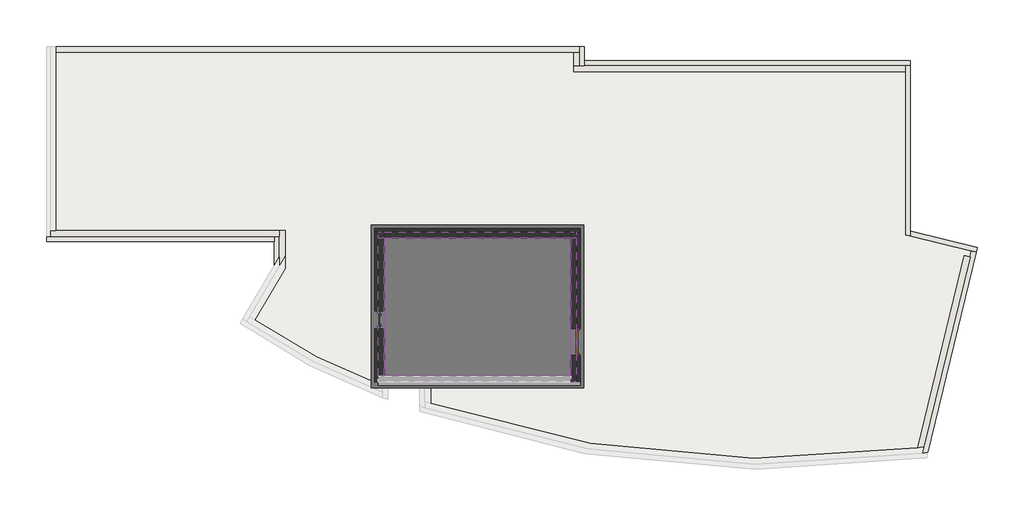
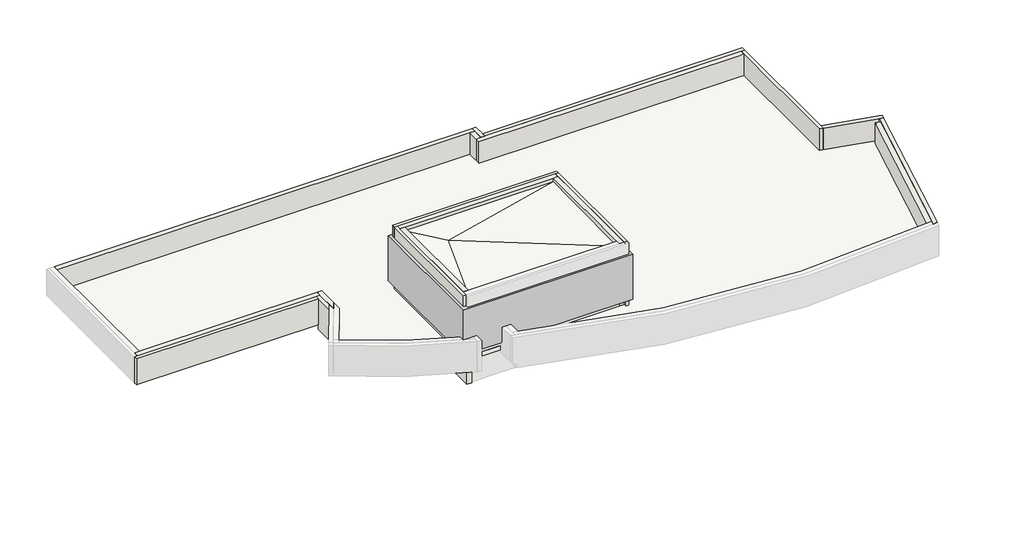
# One storey, part 2 of 2: 26 walls, 2 slabs, 1 door, 1 proxy, 1 window.
"""IFC4 building model written with IfcOpenShell, lengths in millimetres."""

from ifc_helpers import new_model, si_unit, point, frame, frame_2d, origin, place, context, project, spatial, polyline, circle_curve, trimmed, segment, composite_curve, outline, extrude, faceted_brep, transform, mapped, element, save
from ifc_brep_helpers import plane_surface, cylinder_surface, advanced_brep
from components import door_237e380f, window_22ff8bc4

model = new_model("IFC4")

# Units and contexts
model_context = context("Model", 3, world=origin())
ifc_project = project(units=[si_unit("LENGTHUNIT", "METRE", prefix="MILLI")], contexts=[model_context])

# Site, building, storey
site = spatial("IfcSite", under=ifc_project)
building = spatial("IfcBuilding", under=site)
storey = spatial("IfcBuildingStorey", under=building, Name="Этаж 3", Elevation=7100.0)

# Proxy
placement = place(None, origin())
element("IfcBuildingElementProxy", 1, Name="Ф Этаж 3 : Ф Этаж 3", ObjectType="Ф Этаж 3 : Ф Этаж 3", at=placement, inside=storey, context=model_context, shape_type="SweptSolid", body=[
    extrude(outline(polyline([(16510.0, 5120.0), (16510.0, -410.0), (9310.291724, -410.0), (9310.291724, 5120.0), (16510.0, 5120.0)])), frame((0.0, 0.0, 7379.4187309), z_axis=(0.0, 0.0, 1.0), x_axis=(1.0, 0.0, 0.0)), (0.0, 0.0, 1.0), 2020.5812691),
])

# Door
door_shape = door_237e380f(model_context)
element("IfcDoor", 2, ObjectType="(Dr)_ДУ(распашная)_1Ст_Прямоугольная : (Вн)_ДГ(0.91х1.8(h))", at=placement, inside=storey, context=model_context, shape_type="MappedRepresentation", body=[
    mapped(door_shape, transform((16330.0, 1155.0, 7400.0), x_axis=(0.0, 1.0, 0.0), y_axis=(-1.0, 0.0, 0.0), z_axis=(0.0, 0.0, 1.0))),
])

# Slabs
element("IfcSlab", 3, ObjectType="(Вн)_(ЖБ-200)", at=placement, inside=storey, context=model_context, shape_type="SweptSolid", body=[
    extrude(outline(composite_curve([segment(polyline([(16369.9987544, 11190.0), (16369.9987544, 10530.0), (27439.9990554, 10530.0), (27439.9990554, 4781.5670382), (29673.3828723, 4241.2204974), (28012.260804, -2624.6014616)]), True, "CONTINUOUS"), segment(trimmed(circle_curve(frame_2d((22767.3792211, 33121.1499768)), 36128.4863884), [point((28012.260804, -2624.6014616))], [point((11120.291724, -1078.4535524))], False, "CARTESIAN"), True, "CONTINUOUS"), segment(polyline([(11120.291724, -1078.4535524), (11120.291724, -200.0), (9702.291724, -200.0), (9702.291724, -559.9609766)]), True, "CONTINUOUS"), segment(trimmed(circle_curve(frame_2d((16832.6255007, 18872.8552409)), 20699.6619757), [point((9702.291724, -559.9609766))], [point((5077.1985766, 1835.0753462))], False, "CARTESIAN"), True, "CONTINUOUS"), segment(polyline([(5077.1985766, 1835.0753462), (6180.291724, 3707.9768771), (6180.291724, 4730.0), (-1595.9332962, 4730.0), (-1595.9332962, 11190.0), (16369.9987544, 11190.0)]), True, "CONTINUOUS")], self_intersect=False), holes=[polyline([(16070.0, 0.0), (16070.0, 4680.0), (9750.291724, 4680.0), (9750.291724, 0.0), (16070.0, 0.0)])]), frame((0.0, 0.0, 6900.0), z_axis=(0.0, 0.0, 1.0), x_axis=(1.0, 0.0, 0.0)), (0.0, 0.0, 1.0), 200.0),
])
element("IfcSlab", 4, ObjectType="(Кр)_(Тип1-340)", at=placement, inside=storey, context=model_context, shape_type="Brep", body=[
    faceted_brep([(16070.0, 0.0, 9400.0), (9750.291724, 0.0, 9400.0), (9750.291724, 4680.0, 9400.0), (16070.0, 4680.0, 9400.0), (16070.0, 4680.0, 9740.0), (16070.0, 0.0, 9680.0), (9750.291724, 0.0, 9740.0), (9750.291724, 4680.0, 9740.0), (10906.1383765, 3475.324236, 9630.0)], [[[0, 1, 2, 3]], [[0, 3, 4, 5]], [[1, 0, 5, 6]], [[2, 1, 6, 7]], [[3, 2, 7, 4]], [[4, 7, 8]], [[7, 6, 8]], [[4, 8, 5]], [[6, 5, 8]]]),
])

# Walls
element("IfcWall", 5, ObjectType="(Вн)_(ЖБ-200)", at=placement, inside=storey, context=model_context, shape_type="Brep", body=[
    faceted_brep([(9750.291724, -260.0, 6900.0), (9750.291724, -260.0, 5900.0), (9750.291724, 4680.0, 5900.0), (9750.291724, 4780.0, 5900.0), (9750.291724, 4780.0, 6900.0), (9750.291724, 4680.0, 6900.0), (9550.291724, -260.0, 5900.0), (9550.291724, -260.0, 6900.0), (9550.291724, 4780.0, 6900.0), (9550.291724, 4780.0, 5900.0), (9650.291724, 4780.0, 5900.0), (9650.291724, 4780.0, 6900.0)], [[[0, 1, 2, 3, 4, 5]], [[6, 7, 8, 9]], [[3, 2, 1, 6, 9, 10]], [[0, 5, 4, 11, 8, 7]], [[4, 3, 10, 9, 8, 11]], [[0, 7, 6, 1]]]),
])
element("IfcWall", 6, ObjectType="(Вн)_(ЖБ-200)", at=placement, inside=storey, context=model_context, shape_type="Brep", body=[
    faceted_brep([(16070.291724, 4880.0, 5900.0), (16070.291724, 4680.0, 5900.0), (16070.291724, 0.0, 5900.0), (16070.291724, 0.0, 6900.0), (16070.291724, 4680.0, 6900.0), (16070.291724, 4880.0, 6900.0), (16270.291724, 4880.0, 5900.0), (16270.291724, 4880.0, 6900.0), (16270.291724, 0.0, 6900.0), (16270.291724, 0.0, 5900.0)], [[[0, 1, 2, 3, 4, 5]], [[6, 7, 8, 9]], [[2, 1, 0, 6, 9]], [[5, 4, 3, 8, 7]], [[3, 2, 9, 8]], [[0, 5, 7, 6]]]),
])
element("IfcWall", 7, ObjectType="(Вн)_(ЖБ-200)", at=placement, inside=storey, context=model_context, shape_type="Brep", body=[
    faceted_brep([(9750.291724, 4680.0, 5900.0), (16070.291724, 4680.0, 5900.0), (16070.291724, 4680.0, 6900.0), (9750.291724, 4680.0, 6900.0), (9650.291724, 4880.0, 5900.0), (9650.291724, 4880.0, 6900.0), (11650.0, 4880.0, 6900.0), (11850.0, 4880.0, 6900.0), (16070.291724, 4880.0, 6900.0), (16070.291724, 4880.0, 5900.0), (9750.291724, 4780.0, 5900.0), (9650.291724, 4780.0, 5900.0), (9650.291724, 4780.0, 6900.0), (9750.291724, 4780.0, 6900.0)], [[[0, 1, 2, 3]], [[4, 5, 6, 7, 8, 9]], [[1, 0, 10, 11, 4, 9]], [[3, 2, 8, 7, 6, 5, 12, 13]], [[0, 3, 13, 10]], [[13, 12, 11, 10]], [[12, 5, 4, 11]], [[2, 1, 9, 8]]]),
])
element("IfcWall", 8, ObjectType="(Нр)_(ЖБ-200)", at=placement, inside=storey, context=model_context, shape_type="SweptSolid", body=[
    extrude(outline(polyline([(9650.291724, 4880.0), (10865.0425203, 4880.0), (10865.0425203, 4680.0), (9750.291724, 4680.0), (9750.291724, 4780.0), (9650.291724, 4780.0), (9650.291724, 4880.0)])), frame((0.0, 0.0, 5900.0), z_axis=(0.0, 0.0, 1.0), x_axis=(1.0, 0.0, 0.0)), (0.0, 0.0, 1.0), 1000.0),
])
element("IfcWall", 9, ObjectType="(Нр)_(ЖБ-200)", at=placement, inside=storey, context=model_context, shape_type="Brep", body=[
    faceted_brep([(16070.0, 4880.0, 7100.0), (16070.0, 4680.0, 7100.0), (16070.0, 0.0, 7100.0), (16070.0, -200.0, 7100.0), (16070.0, -200.0, 9200.0), (16070.0, 0.0, 9200.0), (16070.0, 700.0, 9200.0), (16070.0, 700.0, 7400.0), (16070.0, 1610.0, 7400.0), (16070.0, 1610.0, 9200.0), (16070.0, 4880.0, 9200.0), (16070.0, 4880.0, 8900.0), (16270.0, -200.0, 7100.0), (16270.0, 4880.0, 7100.0), (16270.0, 4880.0, 9200.0), (16270.0, 1610.0, 9200.0), (16270.0, 1610.0, 7400.0), (16270.0, 700.0, 7400.0), (16270.0, 700.0, 9200.0), (16270.0, -200.0, 9200.0)], [[[0, 1, 2, 3, 4, 5, 6, 7, 8, 9, 10, 11]], [[12, 13, 14, 15, 16, 17, 18, 19]], [[3, 2, 1, 0, 13, 12]], [[4, 19, 18, 6, 5]], [[14, 10, 9, 15]], [[4, 3, 12, 19]], [[10, 14, 13, 0, 11]], [[8, 16, 15, 9]], [[16, 8, 7, 17]], [[17, 7, 6, 18]]]),
])
element("IfcWall", 10, ObjectType="(Нр)_(ЖБ-200)", at=placement, inside=storey, context=model_context, shape_type="Brep", body=[
    faceted_brep([(16070.0, 4680.0, 9400.0), (16070.0, 0.0, 9400.0), (16070.0, -200.0, 9400.0), (16070.0, -200.0, 9900.0), (16070.0, 0.0, 9900.0), (16070.0, 4680.0, 9900.0), (16270.0, 4680.0, 9400.0), (16270.0, 4680.0, 9900.0), (16270.0, -200.0, 9900.0), (16270.0, -200.0, 9400.0)], [[[0, 1, 2, 3, 4, 5]], [[6, 7, 8, 9]], [[2, 1, 0, 6, 9]], [[5, 4, 3, 8, 7]], [[3, 2, 9, 8]], [[0, 5, 7, 6]]]),
])
element("IfcWall", 11, ObjectType="(Нр)_(ЖБ-200)", at=placement, inside=storey, context=model_context, shape_type="Brep", body=[
    faceted_brep([(9550.291724, 4680.0, 9900.0), (9550.291724, 4680.0, 9400.0), (9550.291724, 4680.0, 9200.0), (9550.291724, 4680.0, 8900.0), (9750.291724, 4680.0, 8900.0), (16070.0, 4680.0, 8900.0), (16070.0, 4680.0, 9400.0), (16270.0, 4680.0, 9400.0), (16270.0, 4680.0, 9900.0), (16070.0, 4680.0, 9900.0), (9750.291724, 4680.0, 9900.0), (9550.291724, 4880.0, 8900.0), (9550.291724, 4880.0, 9900.0), (16270.0, 4880.0, 9900.0), (16270.0, 4880.0, 9400.0), (16070.0, 4880.0, 9400.0), (16070.0, 4880.0, 9200.0), (16070.0, 4880.0, 8900.0), (9750.291724, 4880.0, 8900.0)], [[[0, 1, 2, 3, 4, 5, 6, 7, 8, 9, 10]], [[11, 12, 13, 14, 15, 16, 17, 18]], [[5, 4, 3, 11, 18, 17]], [[0, 10, 9, 8, 13, 12]], [[14, 7, 6, 15]], [[6, 5, 17, 16, 15]], [[8, 7, 14, 13]], [[0, 12, 11, 3, 2, 1]]]),
])
element("IfcWall", 12, ObjectType="(Нр)_(ЖБ-200)", at=placement, inside=storey, context=model_context, shape_type="SweptSolid", body=[
    extrude(outline(polyline([(9750.291724, 4680.0), (9750.291724, 0.0), (9550.291724, 0.0), (9550.291724, 4680.0), (9750.291724, 4680.0)])), frame((0.0, 0.0, 9400.0), z_axis=(0.0, 0.0, 1.0), x_axis=(1.0, 0.0, 0.0)), (0.0, 0.0, 1.0), 500.0),
])
element("IfcWall", 13, ObjectType="(Нр)_(ЖБ-200)", at=placement, inside=storey, context=model_context, shape_type="Brep", body=[
    faceted_brep([(9750.291724, 0.0, 9200.0), (9750.291724, 0.0, 7100.0), (9750.291724, 4680.0, 7100.0), (9750.291724, 4880.0, 7100.0), (9750.291724, 4880.0, 8900.0), (9750.291724, 4680.0, 8900.0), (9750.291724, 4680.0, 9200.0), (9750.291724, 2200.0, 8800.0), (9750.291724, 2200.0, 7900.0), (9750.291724, 1600.0, 7900.0), (9750.291724, 1600.0, 8800.0), (9550.291724, 0.0, 7100.0), (9550.291724, 0.0, 8070.0), (9550.291724, 0.0, 9200.0), (9550.291724, 4680.0, 9200.0), (9550.291724, 4680.0, 8900.0), (9550.291724, 4880.0, 8900.0), (9550.291724, 4880.0, 7100.0), (9550.291724, 2200.0, 8800.0), (9550.291724, 1600.0, 8800.0), (9550.291724, 1600.0, 7900.0), (9550.291724, 2200.0, 7900.0)], [[[0, 1, 2, 3, 4, 5, 6], [7, 8, 9, 10]], [[11, 12, 13, 14, 15, 16, 17], [18, 19, 20, 21]], [[3, 2, 1, 11, 17]], [[0, 6, 14, 13]], [[15, 5, 4, 16]], [[4, 3, 17, 16]], [[6, 5, 15, 14]], [[8, 7, 18, 21]], [[9, 8, 21, 20]], [[10, 9, 20, 19]], [[7, 10, 19, 18]], [[0, 13, 12, 11, 1]]]),
])
element("IfcWall", 14, ObjectType="(Нр)_(ЖБ-200)", at=placement, inside=storey, context=model_context, shape_type="SweptSolid", body=[
    extrude(outline(polyline([(16070.0, 4680.0), (9750.291724, 4680.0), (9750.291724, 4880.0), (16070.0, 4880.0), (16070.0, 4680.0)])), frame((0.0, 0.0, 7100.0), z_axis=(0.0, 0.0, 1.0), x_axis=(1.0, 0.0, 0.0)), (0.0, 0.0, 1.0), 1800.0),
])
element("IfcWall", 15, ObjectType="(Нр)_(Ут-120.От-90)", at=placement, inside=storey, context=model_context, shape_type="Brep", body=[
    faceted_brep([(16390.0, 5000.0, 7384.0), (9430.291724, 5000.0, 7384.0), (9430.291724, 5000.0, 9900.0), (16390.0, 5000.0, 9900.0), (16390.0, 4880.0, 7384.0), (16390.0, 4880.0, 9900.0), (16270.0, 4880.0, 9900.0), (9550.291724, 4880.0, 9900.0), (9430.291724, 4880.0, 9900.0), (9430.291724, 4880.0, 7384.0)], [[[0, 1, 2, 3]], [[4, 5, 6, 7, 8, 9]], [[1, 0, 4, 9]], [[3, 2, 8, 7, 6, 5]], [[0, 3, 5, 4]], [[2, 1, 9, 8]]]),
])
element("IfcWall", 16, ObjectType="(Нр)_(Ут-120.От-90)", at=placement, inside=storey, context=model_context, shape_type="Brep", body=[
    faceted_brep([(16390.0, -320.0, 7100.0), (16390.0, 4880.0, 7100.0), (16390.0, 4880.0, 7384.0), (16390.0, 4880.0, 9900.0), (16390.0, -320.0, 9900.0), (16390.0, 1610.0, 9200.0), (16390.0, 1610.0, 7400.0), (16390.0, 700.0, 7400.0), (16390.0, 700.0, 9200.0), (16270.0, -320.0, 7100.0), (16270.0, -320.0, 9900.0), (16270.0, 4880.0, 9900.0), (16270.0, 4880.0, 7100.0), (16270.0, 1610.0, 7400.0), (16270.0, 1610.0, 9200.0), (16270.0, 700.0, 9200.0), (16270.0, 700.0, 7400.0)], [[[0, 1, 2, 3, 4], [5, 6, 7, 8]], [[9, 10, 11, 12], [13, 14, 15, 16]], [[1, 0, 9, 12]], [[4, 3, 11, 10]], [[3, 2, 1, 12, 11]], [[0, 4, 10, 9]], [[6, 5, 14, 13]], [[14, 5, 8, 15]], [[15, 8, 7, 16]], [[6, 13, 16, 7]]]),
])
element("IfcWall", 17, ObjectType="(Нр)_(Ут-120.От-90)", at=placement, inside=storey, context=model_context, shape_type="Brep", body=[
    faceted_brep([(9430.291724, 4880.0, 7100.0), (9430.291724, -200.0, 7100.0), (9430.291724, -200.0, 9900.0), (9430.291724, 4880.0, 9900.0), (9430.291724, 4880.0, 7384.0), (9430.291724, 2200.0, 8800.0), (9430.291724, 1600.0, 8800.0), (9430.291724, 1600.0, 7940.0), (9430.291724, 2200.0, 7940.0), (9550.291724, 4880.0, 7100.0), (9550.291724, 4880.0, 9900.0), (9550.291724, -200.0, 9900.0), (9550.291724, -200.0, 7100.0), (9550.291724, 1600.0, 8800.0), (9550.291724, 2200.0, 8800.0), (9550.291724, 2200.0, 7900.0), (9550.291724, 1600.0, 7900.0), (9530.291724, 1600.0, 7900.0), (9530.291724, 2200.0, 7900.0), (9530.291724, 2200.0, 7940.0), (9530.291724, 1600.0, 7940.0), (9454.856897, 1600.0, 8800.0), (9454.856897, 2200.0, 8800.0), (9454.856897, 1600.0, 7940.0), (9454.856897, 2200.0, 7940.0)], [[[0, 1, 2, 3, 4], [5, 6, 7, 8]], [[9, 10, 11, 12], [13, 14, 15, 16]], [[1, 0, 9, 12]], [[3, 2, 11, 10]], [[0, 4, 3, 10, 9]], [[2, 1, 12, 11]], [[17, 18, 19, 20]], [[14, 13, 21, 6, 5, 22]], [[16, 17, 20, 23, 7, 6, 21, 13]], [[18, 17, 16, 15]], [[18, 15, 14, 22, 5, 8, 24, 19]], [[8, 7, 23, 20, 19, 24]]]),
])
element("IfcWall", 18, ObjectType="(Нр)_(ЖБ-200)", at=placement, inside=storey, context=model_context, shape_type="Brep", body=[
    faceted_brep([(6380.291724, 4047.5495659, 7100.0), (6380.291724, 4930.0, 7100.0), (6380.291724, 4930.0, 8070.0), (6380.291724, 4047.5495659, 8070.0), (6180.291724, 3707.9768771, 7100.0), (6180.291724, 3707.9768771, 8070.0), (6180.291724, 4730.0, 8070.0), (6180.291724, 4930.0, 8070.0), (6180.291724, 4930.0, 7100.0), (6180.291724, 4730.0, 7100.0)], [[[0, 1, 2, 3]], [[4, 5, 6, 7, 8, 9]], [[1, 0, 4, 9, 8]], [[3, 2, 7, 6, 5]], [[0, 3, 5, 4]], [[2, 1, 8, 7]]]),
])
element("IfcWall", 19, ObjectType="(Нр)_(Ут-170.От-90)", at=placement, inside=storey, context=model_context, shape_type="Brep", body=[
    faceted_brep([(6180.291724, 4042.9562704, 8070.0), (6180.291724, 4042.9562704, 6700.0), (6180.291724, 4560.0, 6700.0), (6180.291724, 4560.0, 6900.0), (6180.291724, 4680.0, 6900.0), (6180.291724, 4730.0, 6900.0), (6180.291724, 4730.0, 8070.0), (6010.291724, 3754.3194849, 6700.0), (6010.291724, 3754.3194849, 8070.0), (6010.291724, 4560.0, 8070.0), (6010.291724, 4730.0, 8070.0), (6010.291724, 4730.0, 6900.0), (6010.291724, 4560.0, 6900.0), (6010.291724, 4560.0, 6700.0)], [[[0, 1, 2, 3, 4, 5, 6]], [[7, 8, 9, 10, 11, 12, 13]], [[2, 1, 7, 13]], [[0, 6, 10, 9, 8]], [[0, 8, 7, 1]], [[11, 5, 4, 3, 12]], [[3, 2, 13, 12]], [[6, 5, 11, 10]]]),
])
element("IfcWall", 20, ObjectType="(Нр)_(ЖБ-200)", at=placement, inside=storey, context=model_context, shape_type="Brep", body=[
    faceted_brep([(6180.291724, 4930.0, 7100.0), (-1395.9332962, 4930.0, 7100.0), (-1595.9332962, 4930.0, 7100.0), (-1595.9332962, 4930.0, 8070.0), (-1395.9332962, 4930.0, 8070.0), (6180.291724, 4930.0, 8070.0), (6180.291724, 4730.0, 7100.0), (6180.291724, 4730.0, 8070.0), (-1595.9332962, 4730.0, 8070.0), (-1595.9332962, 4730.0, 7100.0)], [[[0, 1, 2, 3, 4, 5]], [[6, 7, 8, 9]], [[2, 1, 0, 6, 9]], [[5, 4, 3, 8, 7]], [[0, 5, 7, 6]], [[3, 2, 9, 8]]]),
])
element("IfcWall", 21, ObjectType="(Нр)_(Ут-170.От-90)", at=placement, inside=storey, context=model_context, shape_type="Brep", body=[
    faceted_brep([(6010.291724, 4730.0, 6900.0), (-1595.9332962, 4730.0, 6900.0), (-1715.9332962, 4730.0, 6900.0), (-1715.9332962, 4730.0, 8070.0), (-1595.9332962, 4730.0, 8070.0), (6010.291724, 4730.0, 8070.0), (6010.291724, 4560.0, 6900.0), (6010.291724, 4560.0, 8070.0), (-1715.9332962, 4560.0, 8070.0), (-1715.9332962, 4560.0, 6900.0), (-1595.9332962, 4560.0, 6900.0)], [[[0, 1, 2, 3, 4, 5]], [[6, 7, 8, 9, 10]], [[2, 1, 0, 6, 10, 9]], [[5, 4, 3, 8, 7]], [[0, 5, 7, 6]], [[3, 2, 9, 8]]]),
])
element("IfcWall", 22, ObjectType="(Нр)_(ЖБ-200)", at=placement, inside=storey, context=model_context, shape_type="Brep", body=[
    faceted_brep([(-1395.9332962, 10990.0, 7100.0), (16169.9987544, 10990.0, 7100.0), (16369.9987544, 10990.0, 7100.0), (16369.9987544, 10990.0, 8070.0), (16169.9987544, 10990.0, 8070.0), (-1395.9332962, 10990.0, 8070.0), (-1395.9332962, 11190.0, 7100.0), (-1395.9332962, 11190.0, 8070.0), (16369.9987544, 11190.0, 8070.0), (16369.9987544, 11190.0, 7100.0)], [[[0, 1, 2, 3, 4, 5]], [[6, 7, 8, 9]], [[2, 1, 0, 6, 9]], [[5, 4, 3, 8, 7]], [[0, 5, 7, 6]], [[3, 2, 9, 8]]]),
])
element("IfcWall", 23, ObjectType="(Нр)_(ЖБ-200)", at=placement, inside=storey, context=model_context, shape_type="Brep", body=[
    faceted_brep([(16169.9987544, 10330.0, 7100.0), (27439.9990554, 10330.0, 7100.0), (27439.9990554, 10330.0, 7426.4819304), (27439.9990554, 10330.0, 8070.0), (27239.9990554, 10330.0, 8070.0), (16169.9987544, 10330.0, 8070.0), (16169.9987544, 10530.0, 7100.0), (16169.9987544, 10530.0, 8070.0), (16369.9987544, 10530.0, 8070.0), (27439.9990554, 10530.0, 8070.0), (27439.9990554, 10530.0, 7100.0), (16369.9987544, 10530.0, 7100.0)], [[[0, 1, 2, 3, 4, 5]], [[6, 7, 8, 9, 10, 11]], [[1, 0, 6, 11, 10]], [[5, 4, 3, 9, 8, 7]], [[0, 5, 7, 6]], [[3, 2, 1, 10, 9]]]),
])
element("IfcWall", 24, ObjectType="(Нр)_(ЖБ-200)", at=placement, inside=storey, context=model_context, shape_type="SweptSolid", body=[
    extrude(outline(polyline([(16169.9987544, 10530.0), (16169.9987544, 10990.0), (16369.9987544, 10990.0), (16369.9987544, 10530.0), (16169.9987544, 10530.0)])), frame((0.0, 0.0, 7100.0), z_axis=(0.0, 0.0, 1.0), x_axis=(1.0, 0.0, 0.0)), (0.0, 0.0, 1.0), 970.0),
])
element("IfcWall", 25, ObjectType="(Нр)_(Ут-170.От-90)", at=placement, inside=storey, context=model_context, shape_type="Brep", body=[
    faceted_brep([(16369.9987544, 11190.0, 6700.0), (16369.9987544, 10530.0, 6700.0), (16369.9987544, 10530.0, 8070.0), (16369.9987544, 11190.0, 8070.0), (16539.9987544, 11190.0, 6700.0), (16539.9987544, 11190.0, 8070.0), (16539.9987544, 10700.0, 8070.0), (16539.9987544, 10530.0, 8070.0), (16539.9987544, 10530.0, 6700.0), (16539.9987544, 10580.0, 6700.0), (16539.9987544, 10700.0, 6700.0), (16419.9987544, 11190.0, 6700.0)], [[[0, 1, 2, 3]], [[4, 5, 6, 7, 8, 9, 10]], [[1, 0, 11, 4, 10, 9, 8]], [[3, 2, 7, 6, 5]], [[0, 3, 5, 4, 11]], [[2, 1, 8, 7]]]),
])
element("IfcWall", 26, ObjectType="(Нр)_(Ут-170.От-90)", at=placement, inside=storey, context=model_context, shape_type="Brep", body=[
    faceted_brep([(16539.9987544, 10530.0, 6700.0), (27439.9990554, 10530.0, 6700.0), (27589.9990554, 10530.0, 6700.0), (27589.9990554, 10530.0, 8070.0), (27439.9990554, 10530.0, 8070.0), (16539.9987544, 10530.0, 8070.0), (16539.9987544, 10700.0, 6700.0), (16539.9987544, 10700.0, 8070.0), (27589.9990554, 10700.0, 8070.0), (27589.9990554, 10700.0, 6700.0)], [[[0, 1, 2, 3, 4, 5]], [[6, 7, 8, 9]], [[2, 1, 0, 6, 9]], [[5, 4, 3, 8, 7]], [[0, 5, 7, 6]], [[3, 2, 9, 8]]]),
])
element("IfcWall", 27, ObjectType="(Нр)_(ЖБ-200)", at=placement, inside=storey, context=model_context, shape_type="AdvancedBrep", body=[
    advanced_brep(
    [(29431.960122, 4093.8602054, 7100.0), (27849.6874714, -2446.0579121, 7100.0), (27849.6874714, -2446.0579121, 7440.0), (27849.6874714, -2446.0579121, 8070.0), (29431.960122, 4093.8602054, 8070.0), (29431.960122, 4093.8602054, 7440.0), (28062.9900299, -2414.925219, 7100.0), (29626.3516431, 4046.8289763, 7100.0), (29626.3516431, 4046.8289763, 8070.0), (28062.9900299, -2414.925219, 8070.0)],
    [
        (0, 1),
        (1, 2),
        (2, 3),
        (3, 4),
        (4, 5),
        (5, 0),
        (6, 7),
        (7, 8),
        (8, 9),
        (9, 6),
        (0, 7),
        (6, 1, circle_curve(frame((22767.3792211, 33121.1499768, 7100.0), z_axis=(0.0, 0.0, -1.0), x_axis=(1.0, 0.0, 0.0)), 35928.4863884)),
        (3, 9, circle_curve(frame((22767.3792211, 33121.1499768, 8070.0), z_axis=(0.0, 0.0, 1.0), x_axis=(1.0, 0.0, 0.0)), 35928.4863884)),
        (8, 4),
    ],
    [
        plane_surface(frame((29490.7491584, 4336.8496068, 7100.0), z_axis=(-0.9719576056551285, 0.23515614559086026, 0.0), x_axis=(-0.23515614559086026, -0.9719576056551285, 0.0))),
        plane_surface(frame((29685.1406795, 4289.8183777, 7100.0), z_axis=(0.9719576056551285, -0.23515614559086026, 0.0), x_axis=(0.23515614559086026, 0.9719576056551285, 0.0))),
        plane_surface(frame((29455.4757366, 4191.055966, 7100.0), z_axis=(0.0, 0.0, -1.0), x_axis=(0.9719576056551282, -0.23515614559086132, 0.0))),
        plane_surface(frame((27833.7622852, -2511.8805841, 8070.0), z_axis=(0.0, 0.0, 1.0), x_axis=(0.9719576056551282, -0.23515614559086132, 0.0))),
        cylinder_surface(frame((22767.3792211, 33121.1499768, 7100.0), z_axis=(0.0, 0.0, -1.0), x_axis=(1.0, 0.0, 0.0)), 35928.4863884),
        plane_surface(frame((27411.210019, 4582.7619874, 7100.0), z_axis=(0.23515614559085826, 0.9719576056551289, 0.0), x_axis=(0.9719576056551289, -0.23515614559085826, 0.0))),
    ],
    [
        (0, [[1, 2, 3, 4, 5, 6]]),
        (1, [[7, 8, 9, 10]]),
        (2, [[-1, 11, -7, 12]]),
        (3, [[-4, 13, -9, 14]]),
        (4, [[-12, -10, -13, -3, -2]]),
        (5, [[-14, -8, -11, -6, -5]]),
    ],
),
])
element("IfcWall", 28, ObjectType="(Нр)_(Ут-150.От-90)", at=placement, inside=storey, context=model_context, shape_type="Brep", body=[
    faceted_brep([(27439.9990554, 10530.0, 6700.0), (27439.9990554, 4781.5670382, 6700.0), (27439.9990554, 4781.5670382, 8070.0), (27439.9990554, 10530.0, 8070.0), (27589.9990554, 10530.0, 6700.0), (27589.9990554, 10530.0, 8070.0), (27589.9990554, 4920.1806746, 8070.0), (27589.9990554, 4745.2759267, 8070.0), (27589.9990554, 4745.2759267, 6700.0), (27589.9990554, 4920.1806746, 6700.0)], [[[0, 1, 2, 3]], [[4, 5, 6, 7, 8, 9]], [[1, 0, 4, 9, 8]], [[3, 2, 7, 6, 5]], [[0, 3, 5, 4]], [[2, 1, 8, 7]]]),
])
element("IfcWall", 29, ObjectType="(Нр)_(Ут-170.От-90)", at=placement, inside=storey, context=model_context, shape_type="Brep", body=[
    faceted_brep([(27589.9990554, 4745.2759267, 6700.0), (29673.3828723, 4241.2204974, 6700.0), (29838.6156652, 4201.2439527, 6700.0), (29838.6156652, 4201.2439527, 8070.0), (29673.3828723, 4241.2204974, 8070.0), (27589.9990554, 4745.2759267, 8070.0), (27589.9990554, 4920.1806746, 6700.0), (27589.9990554, 4920.1806746, 8070.0), (29878.59221, 4366.4767457, 8070.0), (29878.59221, 4366.4767457, 6700.0)], [[[0, 1, 2, 3, 4, 5]], [[6, 7, 8, 9]], [[2, 1, 0, 6, 9]], [[5, 4, 3, 8, 7]], [[0, 5, 7, 6]], [[3, 2, 9, 8]]]),
])
element("IfcWall", 30, ObjectType="(Нр)_(Ут-170.От-90)", at=placement, inside=storey, context=model_context, shape_type="SweptSolid", body=[
    extrude(outline(composite_curve([segment(polyline([(28012.260804, -2624.6014616), (29673.3828723, 4241.2204974), (29838.6156652, 4201.2439527), (28193.7211946, -2597.5053941)]), True, "CONTINUOUS"), segment(trimmed(circle_curve(frame_2d((22767.3792211, 33121.1499768)), 36128.4863884), [point((28193.7211946, -2597.5053941))], [point((28012.260804, -2624.6014616))], False, "CARTESIAN"), True, "CONTINUOUS")], self_intersect=False)), frame((0.0, 0.0, 6700.0), z_axis=(0.0, 0.0, 1.0), x_axis=(1.0, 0.0, 0.0)), (0.0, 0.0, 1.0), 1370.0),
])

# Window
window_shape = window_22ff8bc4(model_context)
element("IfcWindow", 31, ObjectType="RFAM2316_Window-10 : Window  FIX (0,6x0,9(h))", at=placement, inside=storey, context=model_context, shape_type="MappedRepresentation", body=[
    mapped(window_shape, transform((9485.3510072, 1643.1415906, 7000.0), x_axis=(0.0, 1.0, 0.0), y_axis=(-1.0, 0.0, 0.0), z_axis=(0.0, 0.0, 1.0))),
])

save(model, "model.ifc")
